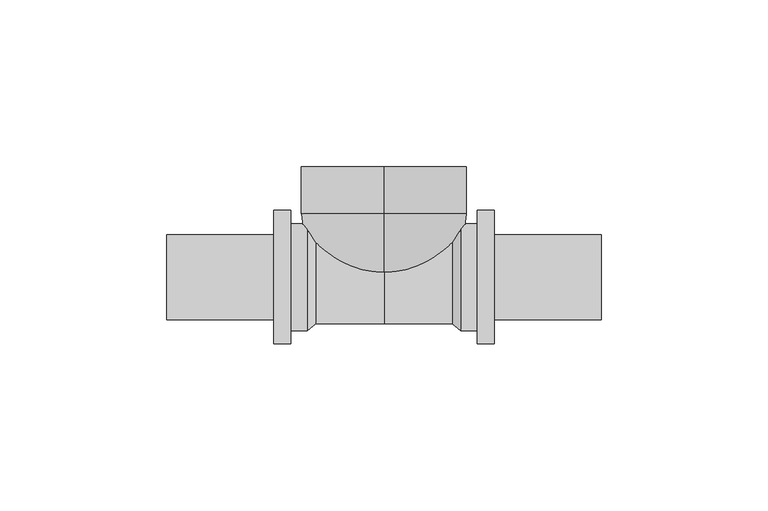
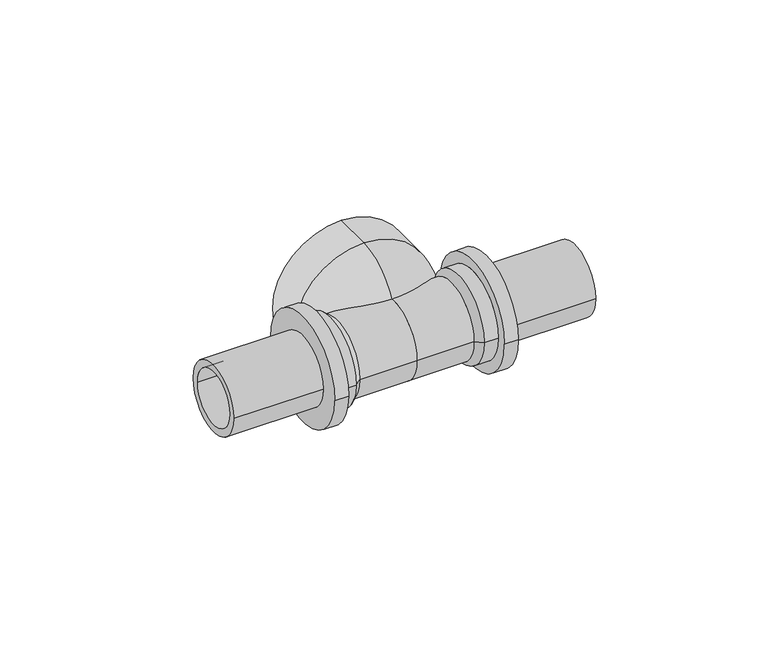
"""IFC4 building model written with IfcOpenShell, lengths in millimetres: pipe fitting geometry, REHAU_RAUTITAN_T-piece RX+, outlet with internal thread : REHAU_RAUTITAN_T-piece RX+, outlet with internal thread."""

from ifc_helpers import new_model, si_unit, point, frame, origin, place, context, project, spatial, polyline, circle_curve, ellipse_curve, trimmed, source, transform, mapped, element, save
from ifc_brep_helpers import plane_surface, cylinder_surface, revolved_surface, advanced_brep


def pipe_fitting_bc26b19e(model_context):
    return source(origin(), model_context, "Body", "AdvancedBrep", [
        advanced_brep(
        [(-33.0, 12.725, 0.0), (-33.0, -12.725, 0.0), (-65.0, -12.725, 0.0), (-65.0, 12.725, 0.0), (-28.0, 20.0, 0.0), (-28.0, -20.0, 0.0), (-33.0, -20.0, 0.0), (-33.0, 20.0, 0.0), (-23.0, 16.0, 0.0), (-23.0, -16.0, 0.0), (-28.0, -16.0, 0.0), (-28.0, 16.0, 0.0), (-20.5, 14.005, 0.0), (-20.5, -14.005, 0.0), (0.0, 14.005, 0.0), (0.0, -14.005, 0.0), (-20.5, 10.5, 0.0), (-20.5, -10.5, 0.0), (0.0, -10.5, 0.0), (0.0, 10.5, 0.0), (-23.0, 10.0, 0.0), (-23.0, -10.0, 0.0), (-65.0, 10.0, 0.0), (-65.0, -10.0, 0.0)],
        [
            (0, 1, circle_curve(frame((-33.0, 0.0, 0.0), z_axis=(-1.0, 0.0, 0.0), x_axis=(0.0, -1.0, 0.0)), 12.725)),
            (1, 2),
            (2, 3, circle_curve(frame((-65.0, 0.0, 0.0), z_axis=(1.0, 0.0, 0.0), x_axis=(0.0, -1.0, 0.0)), 12.725)),
            (3, 0),
            (4, 5, circle_curve(frame((-28.0, 0.0, 0.0), z_axis=(-1.0, 0.0, 0.0), x_axis=(0.0, -1.0, 0.0)), 20.0)),
            (5, 6),
            (6, 7, circle_curve(frame((-33.0, 0.0, 0.0), z_axis=(1.0, 0.0, 0.0), x_axis=(0.0, -1.0, 0.0)), 20.0)),
            (7, 4),
            (8, 9, circle_curve(frame((-23.0, 0.0, 0.0), z_axis=(-1.0, 0.0, 0.0), x_axis=(0.0, -1.0, 0.0)), 16.0)),
            (9, 10),
            (10, 11, circle_curve(frame((-28.0, 0.0, 0.0), z_axis=(1.0, 0.0, 0.0), x_axis=(0.0, -1.0, 0.0)), 16.0)),
            (11, 8),
            (12, 13, circle_curve(frame((-20.5, 0.0, 0.0), z_axis=(-1.0, 0.0, 0.0), x_axis=(0.0, -1.0, 0.0)), 14.005)),
            (13, 9),
            (8, 12),
            (14, 15, circle_curve(frame((0.0, 0.0, 0.0), z_axis=(-1.0, 0.0, 0.0), x_axis=(0.0, -1.0, 0.0)), 14.005)),
            (15, 13),
            (12, 14),
            (16, 17, circle_curve(frame((-20.5, 0.0, 0.0), z_axis=(-1.0, 0.0, 0.0), x_axis=(0.0, -1.0, 0.0)), 10.5)),
            (17, 18),
            (18, 19, circle_curve(frame((0.0, 0.0, 0.0), z_axis=(1.0, 0.0, 0.0), x_axis=(0.0, -1.0, 0.0)), 10.5)),
            (19, 16),
            (20, 21, circle_curve(frame((-23.0, 0.0, 0.0), z_axis=(-1.0, 0.0, 0.0), x_axis=(0.0, -1.0, 0.0)), 10.0)),
            (21, 17),
            (16, 20),
            (22, 23, circle_curve(frame((-65.0, 0.0, 0.0), z_axis=(-1.0, 0.0, 0.0), x_axis=(0.0, -1.0, 0.0)), 10.0)),
            (23, 21),
            (20, 22),
            (1, 0, circle_curve(frame((-33.0, 0.0, 0.0), z_axis=(-1.0, 0.0, 0.0), x_axis=(0.0, 1.0, 0.0)), 12.725)),
            (3, 2, circle_curve(frame((-65.0, 0.0, 0.0), z_axis=(1.0, 0.0, 0.0), x_axis=(0.0, 1.0, 0.0)), 12.725)),
            (6, 7, circle_curve(frame((-33.0, 0.0, 0.0), z_axis=(-1.0, 0.0, 0.0), x_axis=(0.0, 1.0, 0.0)), 20.0)),
            (5, 4, circle_curve(frame((-28.0, 0.0, 0.0), z_axis=(-1.0, 0.0, 0.0), x_axis=(0.0, 1.0, 0.0)), 20.0)),
            (10, 11, circle_curve(frame((-28.0, 0.0, 0.0), z_axis=(-1.0, 0.0, 0.0), x_axis=(0.0, 1.0, 0.0)), 16.0)),
            (9, 8, circle_curve(frame((-23.0, 0.0, 0.0), z_axis=(-1.0, 0.0, 0.0), x_axis=(0.0, 1.0, 0.0)), 16.0)),
            (13, 12, circle_curve(frame((-20.5, 0.0, 0.0), z_axis=(-1.0, 0.0, 0.0), x_axis=(0.0, 1.0, 0.0)), 14.005)),
            (15, 14, circle_curve(frame((0.0, 0.0, 0.0), z_axis=(-1.0, 0.0, 0.0), x_axis=(0.0, 1.0, 0.0)), 14.005)),
            (18, 19, circle_curve(frame((0.0, 0.0, 0.0), z_axis=(-1.0, 0.0, 0.0), x_axis=(0.0, 1.0, 0.0)), 10.5)),
            (17, 16, circle_curve(frame((-20.5, 0.0, 0.0), z_axis=(-1.0, 0.0, 0.0), x_axis=(0.0, 1.0, 0.0)), 10.5)),
            (21, 20, circle_curve(frame((-23.0, 0.0, 0.0), z_axis=(-1.0, 0.0, 0.0), x_axis=(0.0, 1.0, 0.0)), 10.0)),
            (23, 22, circle_curve(frame((-65.0, 0.0, 0.0), z_axis=(-1.0, 0.0, 0.0), x_axis=(0.0, 1.0, 0.0)), 10.0)),
        ],
        [
            cylinder_surface(frame((0.0, 0.0, 0.0), z_axis=(1.0, 0.0, 0.0), x_axis=(0.0, -1.0, 0.0)), 12.725),
            cylinder_surface(frame((0.0, 0.0, 0.0), z_axis=(1.0, 0.0, 0.0), x_axis=(0.0, -1.0, 0.0)), 20.0),
            cylinder_surface(frame((0.0, 0.0, 0.0), z_axis=(1.0, 0.0, 0.0), x_axis=(0.0, -1.0, 0.0)), 16.0),
            revolved_surface(polyline([(-23.0, -16.0, 0.0), (-20.5, -14.005, 0.0)]), (0.0, 0.0, 0.0), (1.0, 0.0, 0.0)),
            cylinder_surface(frame((0.0, 0.0, 0.0), z_axis=(1.0, 0.0, 0.0), x_axis=(0.0, -1.0, 0.0)), 14.005),
            revolved_surface(polyline([(0.0, -10.5, 0.0), (-20.5, -10.5, 0.0)]), (0.0, 0.0, 0.0), (1.0, 0.0, 0.0)),
            revolved_surface(polyline([(-20.5, -10.5, 0.0), (-23.0, -10.0, 0.0)]), (0.0, 0.0, 0.0), (1.0, 0.0, 0.0)),
            revolved_surface(polyline([(-23.0, -10.0, 0.0), (-65.0, -10.0, 0.0)]), (0.0, 0.0, 0.0), (1.0, 0.0, 0.0)),
            cylinder_surface(frame((0.0, 0.0, 0.0), z_axis=(1.0, 0.0, 0.0), x_axis=(0.0, 1.0, 0.0)), 12.725),
            plane_surface(frame((-33.0, 0.0, 0.0), z_axis=(-1.0, 0.0, 0.0), x_axis=(0.0, 1.0, 0.0))),
            cylinder_surface(frame((0.0, 0.0, 0.0), z_axis=(1.0, 0.0, 0.0), x_axis=(0.0, 1.0, 0.0)), 20.0),
            plane_surface(frame((-28.0, 0.0, 0.0), z_axis=(1.0, 0.0, 0.0), x_axis=(0.0, 1.0, 0.0))),
            cylinder_surface(frame((0.0, 0.0, 0.0), z_axis=(1.0, 0.0, 0.0), x_axis=(0.0, 1.0, 0.0)), 16.0),
            revolved_surface(polyline([(-23.0, 16.0, 0.0), (-20.5, 14.005, 0.0)]), (0.0, 0.0, 0.0), (1.0, 0.0, 0.0)),
            cylinder_surface(frame((0.0, 0.0, 0.0), z_axis=(1.0, 0.0, 0.0), x_axis=(0.0, 1.0, 0.0)), 14.005),
            plane_surface(frame((0.0, 0.0, 0.0), z_axis=(1.0, 0.0, 0.0), x_axis=(0.0, 1.0, 0.0))),
            revolved_surface(polyline([(0.0, 10.5, 0.0), (-20.5, 10.5, 0.0)]), (0.0, 0.0, 0.0), (1.0, 0.0, 0.0)),
            revolved_surface(polyline([(-20.5, 10.5, 0.0), (-23.0, 10.0, 0.0)]), (0.0, 0.0, 0.0), (1.0, 0.0, 0.0)),
            revolved_surface(polyline([(-23.0, 10.0, 0.0), (-65.0, 10.0, 0.0)]), (0.0, 0.0, 0.0), (1.0, 0.0, 0.0)),
            plane_surface(frame((-65.0, 0.0, 0.0), z_axis=(-1.0, 0.0, 0.0), x_axis=(0.0, 1.0, 0.0))),
        ],
        [
            (0, [[1, 2, 3, 4]]),
            (1, [[5, 6, 7, 8]]),
            (2, [[9, 10, 11, 12]]),
            (3, [[13, 14, -9, 15]]),
            (4, [[16, 17, -13, 18]]),
            (5, [[19, 20, 21, 22]]),
            (6, [[23, 24, -19, 25]]),
            (7, [[26, 27, -23, 28]]),
            (8, [[29, -4, 30, -2]]),
            (9, [[31, -7], [-29, -1]]),
            (10, [[32, -8, -31, -6]]),
            (11, [[-32, -5], [33, -11]]),
            (12, [[34, -12, -33, -10]]),
            (13, [[35, -15, -34, -14]]),
            (14, [[36, -18, -35, -17]]),
            (15, [[-36, -16], [37, -21]]),
            (16, [[38, -22, -37, -20]]),
            (17, [[39, -25, -38, -24]]),
            (18, [[40, -28, -39, -27]]),
            (19, [[-30, -3], [-40, -26]]),
        ],
    ),
        advanced_brep(
        [(23.0, 10.0, 0.0), (23.0, -10.0, 0.0), (65.0, -10.0, 0.0), (65.0, 10.0, 0.0), (20.5, 10.5, 0.0), (20.5, -10.5, 0.0), (0.0, 10.5, 0.0), (0.0, -10.5, 0.0), (20.5, 14.005, 0.0), (20.5, -14.005, 0.0), (0.0, -14.005, 0.0), (0.0, 14.005, 0.0), (23.0, 16.0, 0.0), (23.0, -16.0, 0.0), (28.0, 16.0, 0.0), (28.0, -16.0, 0.0), (33.0, 20.0, 0.0), (33.0, -20.0, 0.0), (28.0, -20.0, 0.0), (28.0, 20.0, 0.0), (65.0, 12.725, 0.0), (65.0, -12.725, 0.0), (33.0, -12.725, 0.0), (33.0, 12.725, 0.0)],
        [
            (0, 1, circle_curve(frame((23.0, 0.0, 0.0), z_axis=(-1.0, 0.0, 0.0), x_axis=(0.0, -1.0, 0.0)), 10.0)),
            (1, 2),
            (2, 3, circle_curve(frame((65.0, 0.0, 0.0), z_axis=(1.0, 0.0, 0.0), x_axis=(0.0, -1.0, 0.0)), 10.0)),
            (3, 0),
            (4, 5, circle_curve(frame((20.5, 0.0, 0.0), z_axis=(-1.0, 0.0, 0.0), x_axis=(0.0, -1.0, 0.0)), 10.5)),
            (5, 1),
            (0, 4),
            (6, 7, circle_curve(frame((0.0, 0.0, 0.0), z_axis=(-1.0, 0.0, 0.0), x_axis=(0.0, -1.0, 0.0)), 10.5)),
            (7, 5),
            (4, 6),
            (8, 9, circle_curve(frame((20.5, 0.0, 0.0), z_axis=(-1.0, 0.0, 0.0), x_axis=(0.0, -1.0, 0.0)), 14.005)),
            (9, 10),
            (10, 11, circle_curve(frame((0.0, 0.0, 0.0), z_axis=(1.0, 0.0, 0.0), x_axis=(0.0, -1.0, 0.0)), 14.005)),
            (11, 8),
            (12, 13, circle_curve(frame((23.0, 0.0, 0.0), z_axis=(-1.0, 0.0, 0.0), x_axis=(0.0, -1.0, 0.0)), 16.0)),
            (13, 9),
            (8, 12),
            (14, 15, circle_curve(frame((28.0, 0.0, 0.0), z_axis=(-1.0, 0.0, 0.0), x_axis=(0.0, -1.0, 0.0)), 16.0)),
            (15, 13),
            (12, 14),
            (16, 17, circle_curve(frame((33.0, 0.0, 0.0), z_axis=(-1.0, 0.0, 0.0), x_axis=(0.0, -1.0, 0.0)), 20.0)),
            (17, 18),
            (18, 19, circle_curve(frame((28.0, 0.0, 0.0), z_axis=(1.0, 0.0, 0.0), x_axis=(0.0, -1.0, 0.0)), 20.0)),
            (19, 16),
            (20, 21, circle_curve(frame((65.0, 0.0, 0.0), z_axis=(-1.0, 0.0, 0.0), x_axis=(0.0, -1.0, 0.0)), 12.725)),
            (21, 22),
            (22, 23, circle_curve(frame((33.0, 0.0, 0.0), z_axis=(1.0, 0.0, 0.0), x_axis=(0.0, -1.0, 0.0)), 12.725)),
            (23, 20),
            (20, 21, circle_curve(frame((65.0, 0.0, 0.0), z_axis=(1.0, 0.0, 0.0), x_axis=(0.0, 1.0, 0.0)), 12.725)),
            (2, 3, circle_curve(frame((65.0, 0.0, 0.0), z_axis=(-1.0, 0.0, 0.0), x_axis=(0.0, 1.0, 0.0)), 10.0)),
            (1, 0, circle_curve(frame((23.0, 0.0, 0.0), z_axis=(-1.0, 0.0, 0.0), x_axis=(0.0, 1.0, 0.0)), 10.0)),
            (5, 4, circle_curve(frame((20.5, 0.0, 0.0), z_axis=(-1.0, 0.0, 0.0), x_axis=(0.0, 1.0, 0.0)), 10.5)),
            (7, 6, circle_curve(frame((0.0, 0.0, 0.0), z_axis=(-1.0, 0.0, 0.0), x_axis=(0.0, 1.0, 0.0)), 10.5)),
            (10, 11, circle_curve(frame((0.0, 0.0, 0.0), z_axis=(-1.0, 0.0, 0.0), x_axis=(0.0, 1.0, 0.0)), 14.005)),
            (9, 8, circle_curve(frame((20.5, 0.0, 0.0), z_axis=(-1.0, 0.0, 0.0), x_axis=(0.0, 1.0, 0.0)), 14.005)),
            (13, 12, circle_curve(frame((23.0, 0.0, 0.0), z_axis=(-1.0, 0.0, 0.0), x_axis=(0.0, 1.0, 0.0)), 16.0)),
            (15, 14, circle_curve(frame((28.0, 0.0, 0.0), z_axis=(-1.0, 0.0, 0.0), x_axis=(0.0, 1.0, 0.0)), 16.0)),
            (18, 19, circle_curve(frame((28.0, 0.0, 0.0), z_axis=(-1.0, 0.0, 0.0), x_axis=(0.0, 1.0, 0.0)), 20.0)),
            (17, 16, circle_curve(frame((33.0, 0.0, 0.0), z_axis=(-1.0, 0.0, 0.0), x_axis=(0.0, 1.0, 0.0)), 20.0)),
            (22, 23, circle_curve(frame((33.0, 0.0, 0.0), z_axis=(-1.0, 0.0, 0.0), x_axis=(0.0, 1.0, 0.0)), 12.725)),
        ],
        [
            revolved_surface(polyline([(65.0, -10.0, 0.0), (23.0, -10.0, 0.0)]), (0.0, 0.0, 0.0), (1.0, 0.0, 0.0)),
            revolved_surface(polyline([(23.0, -10.0, 0.0), (20.5, -10.5, 0.0)]), (0.0, 0.0, 0.0), (1.0, 0.0, 0.0)),
            revolved_surface(polyline([(20.5, -10.5, 0.0), (0.0, -10.5, 0.0)]), (0.0, 0.0, 0.0), (1.0, 0.0, 0.0)),
            cylinder_surface(frame((0.0, 0.0, 0.0), z_axis=(1.0, 0.0, 0.0), x_axis=(0.0, -1.0, 0.0)), 14.005),
            revolved_surface(polyline([(20.5, -14.005, 0.0), (23.0, -16.0, 0.0)]), (0.0, 0.0, 0.0), (1.0, 0.0, 0.0)),
            cylinder_surface(frame((0.0, 0.0, 0.0), z_axis=(1.0, 0.0, 0.0), x_axis=(0.0, -1.0, 0.0)), 16.0),
            cylinder_surface(frame((0.0, 0.0, 0.0), z_axis=(1.0, 0.0, 0.0), x_axis=(0.0, -1.0, 0.0)), 20.0),
            cylinder_surface(frame((0.0, 0.0, 0.0), z_axis=(1.0, 0.0, 0.0), x_axis=(0.0, -1.0, 0.0)), 12.725),
            plane_surface(frame((65.0, 0.0, 0.0), z_axis=(1.0, 0.0, 0.0), x_axis=(0.0, 1.0, 0.0))),
            revolved_surface(polyline([(65.0, 10.0, 0.0), (23.0, 10.0, 0.0)]), (0.0, 0.0, 0.0), (1.0, 0.0, 0.0)),
            revolved_surface(polyline([(23.0, 10.0, 0.0), (20.5, 10.5, 0.0)]), (0.0, 0.0, 0.0), (1.0, 0.0, 0.0)),
            revolved_surface(polyline([(20.5, 10.5, 0.0), (0.0, 10.5, 0.0)]), (0.0, 0.0, 0.0), (1.0, 0.0, 0.0)),
            plane_surface(frame((0.0, 0.0, 0.0), z_axis=(-1.0, 0.0, 0.0), x_axis=(0.0, 1.0, 0.0))),
            cylinder_surface(frame((0.0, 0.0, 0.0), z_axis=(1.0, 0.0, 0.0), x_axis=(0.0, 1.0, 0.0)), 14.005),
            revolved_surface(polyline([(20.5, 14.005, 0.0), (23.0, 16.0, 0.0)]), (0.0, 0.0, 0.0), (1.0, 0.0, 0.0)),
            cylinder_surface(frame((0.0, 0.0, 0.0), z_axis=(1.0, 0.0, 0.0), x_axis=(0.0, 1.0, 0.0)), 16.0),
            plane_surface(frame((28.0, 0.0, 0.0), z_axis=(-1.0, 0.0, 0.0), x_axis=(0.0, 1.0, 0.0))),
            cylinder_surface(frame((0.0, 0.0, 0.0), z_axis=(1.0, 0.0, 0.0), x_axis=(0.0, 1.0, 0.0)), 20.0),
            plane_surface(frame((33.0, 0.0, 0.0), z_axis=(1.0, 0.0, 0.0), x_axis=(0.0, 1.0, 0.0))),
            cylinder_surface(frame((0.0, 0.0, 0.0), z_axis=(1.0, 0.0, 0.0), x_axis=(0.0, 1.0, 0.0)), 12.725),
        ],
        [
            (0, [[1, 2, 3, 4]]),
            (1, [[5, 6, -1, 7]]),
            (2, [[8, 9, -5, 10]]),
            (3, [[11, 12, 13, 14]]),
            (4, [[15, 16, -11, 17]]),
            (5, [[18, 19, -15, 20]]),
            (6, [[21, 22, 23, 24]]),
            (7, [[25, 26, 27, 28]]),
            (8, [[29, -25], [30, -3]]),
            (9, [[31, -4, -30, -2]]),
            (10, [[32, -7, -31, -6]]),
            (11, [[33, -10, -32, -9]]),
            (12, [[34, -13], [-33, -8]]),
            (13, [[35, -14, -34, -12]]),
            (14, [[36, -17, -35, -16]]),
            (15, [[37, -20, -36, -19]]),
            (16, [[38, -23], [-37, -18]]),
            (17, [[39, -24, -38, -22]]),
            (18, [[-39, -21], [40, -27]]),
            (19, [[-29, -28, -40, -26]]),
        ],
    ),
        advanced_brep(
        [(0.0, -1.0587443, 5.275), (0.0, -1.0587443, -5.275), (0.0, 18.92, -24.76), (0.0, 18.92, 24.76), (0.0, 3.7182205, 5.275), (0.0, 3.7182205, -5.275), (0.0, 18.92, 19.985), (0.0, 18.92, -19.985), (0.0, 33.0, 19.985), (0.0, 33.0, -19.985), (0.0, 33.0, -24.76), (0.0, 33.0, 24.76)],
        [
            (0, 1, circle_curve(frame((0.0, -1.0587443, 0.0), z_axis=(0.0, 1.0, 0.0), x_axis=(0.0, 0.0, -1.0)), 5.275)),
            (1, 2, circle_curve(frame((0.0, 18.92, -4.775), z_axis=(1.0, 0.0, 0.0), x_axis=(0.0, 1.0, 0.0)), 19.985)),
            (2, 3, circle_curve(frame((0.0, 18.92, 0.0), z_axis=(0.0, -1.0, 0.0), x_axis=(0.0, 0.0, -1.0)), 24.76)),
            (3, 0, circle_curve(frame((0.0, 18.92, 4.775), z_axis=(1.0, 0.0, 0.0), x_axis=(0.0, 1.0, 0.0)), 19.985)),
            (4, 5, circle_curve(frame((0.0, 3.7182205, 0.0), z_axis=(0.0, 1.0, 0.0), x_axis=(0.0, 0.0, -1.0)), 5.275)),
            (5, 1),
            (0, 4),
            (6, 7, circle_curve(frame((0.0, 18.92, 0.0), z_axis=(0.0, 1.0, 0.0), x_axis=(0.0, 0.0, -1.0)), 19.985)),
            (7, 5, circle_curve(frame((0.0, 18.92, -4.775), z_axis=(-1.0, 0.0, 0.0), x_axis=(0.0, 1.0, 0.0)), 15.21)),
            (4, 6, circle_curve(frame((0.0, 18.92, 4.775), z_axis=(-1.0, 0.0, 0.0), x_axis=(0.0, 1.0, 0.0)), 15.21)),
            (8, 9, circle_curve(frame((0.0, 33.0, 0.0), z_axis=(0.0, 1.0, 0.0), x_axis=(0.0, 0.0, -1.0)), 19.985)),
            (9, 7),
            (6, 8),
            (2, 10),
            (10, 11, circle_curve(frame((0.0, 33.0, 0.0), z_axis=(0.0, -1.0, 0.0), x_axis=(0.0, 0.0, -1.0)), 24.76)),
            (11, 3),
            (1, 0, circle_curve(frame((0.0, -1.0587443, 0.0), z_axis=(0.0, 1.0, 0.0), x_axis=(0.0, 0.0, 1.0)), 5.275)),
            (3, 2, circle_curve(frame((0.0, 18.92, 0.0), z_axis=(0.0, -1.0, 0.0), x_axis=(0.0, 0.0, 1.0)), 24.76)),
            (5, 4, circle_curve(frame((0.0, 3.7182205, 0.0), z_axis=(0.0, 1.0, 0.0), x_axis=(0.0, 0.0, 1.0)), 5.275)),
            (7, 6, circle_curve(frame((0.0, 18.92, 0.0), z_axis=(0.0, 1.0, 0.0), x_axis=(0.0, 0.0, 1.0)), 19.985)),
            (9, 8, circle_curve(frame((0.0, 33.0, 0.0), z_axis=(0.0, 1.0, 0.0), x_axis=(0.0, 0.0, 1.0)), 19.985)),
            (10, 11, circle_curve(frame((0.0, 33.0, 0.0), z_axis=(0.0, 1.0, 0.0), x_axis=(0.0, 0.0, 1.0)), 24.76)),
        ],
        [
            revolved_surface(trimmed(ellipse_curve(frame((0.0, 18.92, -4.775), z_axis=(-1.0, 0.0, 0.0), x_axis=(0.0, 1.0, 0.0)), 19.985, 19.985), [point((0.0, 18.92, -24.76))], [point((0.0, -1.0587443, -5.275))], True, "CARTESIAN"), (0.0, 0.0, 0.0), (0.0, -1.0, 0.0)),
            revolved_surface(polyline([(0.0, -1.0587443, -5.275), (0.0, 3.7182205, -5.275)]), (0.0, 0.0, 0.0), (0.0, -1.0, 0.0)),
            revolved_surface(trimmed(ellipse_curve(frame((0.0, 18.92, -4.775), z_axis=(1.0, 0.0, 0.0), x_axis=(0.0, 1.0, 0.0)), 15.21, 15.21), [point((0.0, 3.7182205, -5.275))], [point((0.0, 18.92, -19.985))], True, "CARTESIAN"), (0.0, 0.0, 0.0), (0.0, -1.0, 0.0)),
            revolved_surface(polyline([(0.0, 18.92, -19.985), (0.0, 33.0, -19.985)]), (0.0, 0.0, 0.0), (0.0, -1.0, 0.0)),
            cylinder_surface(frame((0.0, 0.0, 0.0), z_axis=(0.0, -1.0, 0.0), x_axis=(0.0, 0.0, -1.0)), 24.76),
            revolved_surface(trimmed(ellipse_curve(frame((0.0, 18.92, 4.775), z_axis=(1.0, 0.0, 0.0), x_axis=(0.0, 1.0, 0.0)), 19.985, 19.985), [point((0.0, 18.92, 24.76))], [point((0.0, -1.0587443, 5.275))], True, "CARTESIAN"), (0.0, 0.0, 0.0), (0.0, -1.0, 0.0)),
            revolved_surface(polyline([(0.0, -1.0587443, 5.275), (0.0, 3.7182205, 5.275)]), (0.0, 0.0, 0.0), (0.0, -1.0, 0.0)),
            revolved_surface(trimmed(ellipse_curve(frame((0.0, 18.92, 4.775), z_axis=(-1.0, 0.0, 0.0), x_axis=(0.0, 1.0, 0.0)), 15.21, 15.21), [point((0.0, 3.7182205, 5.275))], [point((0.0, 18.92, 19.985))], True, "CARTESIAN"), (0.0, 0.0, 0.0), (0.0, -1.0, 0.0)),
            revolved_surface(polyline([(0.0, 18.92, 19.985), (0.0, 33.0, 19.985)]), (0.0, 0.0, 0.0), (0.0, -1.0, 0.0)),
            plane_surface(frame((0.0, 33.0, 0.0), z_axis=(0.0, 1.0, 0.0), x_axis=(0.0, 0.0, 1.0))),
            cylinder_surface(frame((0.0, 0.0, 0.0), z_axis=(0.0, -1.0, 0.0), x_axis=(0.0, 0.0, 1.0)), 24.76),
        ],
        [
            (0, [[1, 2, 3, 4]]),
            (1, [[5, 6, -1, 7]]),
            (2, [[8, 9, -5, 10]]),
            (3, [[11, 12, -8, 13]]),
            (4, [[-3, 14, 15, 16]]),
            (5, [[17, -4, 18, -2]]),
            (6, [[19, -7, -17, -6]]),
            (7, [[20, -10, -19, -9]]),
            (8, [[21, -13, -20, -12]]),
            (9, [[22, -15], [-21, -11]]),
            (10, [[-18, -16, -22, -14]]),
        ],
    ),
    ])


if __name__ == "__main__":
    model = new_model("IFC4")
    model_context = context("Model", 3, world=origin())
    ifc_project = project(units=[si_unit("LENGTHUNIT", "METRE", prefix="MILLI")], contexts=[model_context])
    site = spatial("IfcSite", under=ifc_project)
    building = spatial("IfcBuilding", under=site)
    placement = place(None, origin())
    pipe_fitting_shape = pipe_fitting_bc26b19e(model_context)
    element("IfcPipeFitting", 1, ObjectType="REHAU_RAUTITAN_T-piece RX+, outlet with internal thread : REHAU_RAUTITAN_T-piece RX+, outlet with internal thread", at=placement, inside=building, context=model_context, shape_type="MappedRepresentation", body=[
        mapped(pipe_fitting_shape, transform((0.0, 0.0, 0.0), x_axis=(1.0, 0.0, 0.0), y_axis=(0.0, 1.0, 0.0), z_axis=(0.0, 0.0, 1.0))),
    ])
    save(model, "model.ifc")
